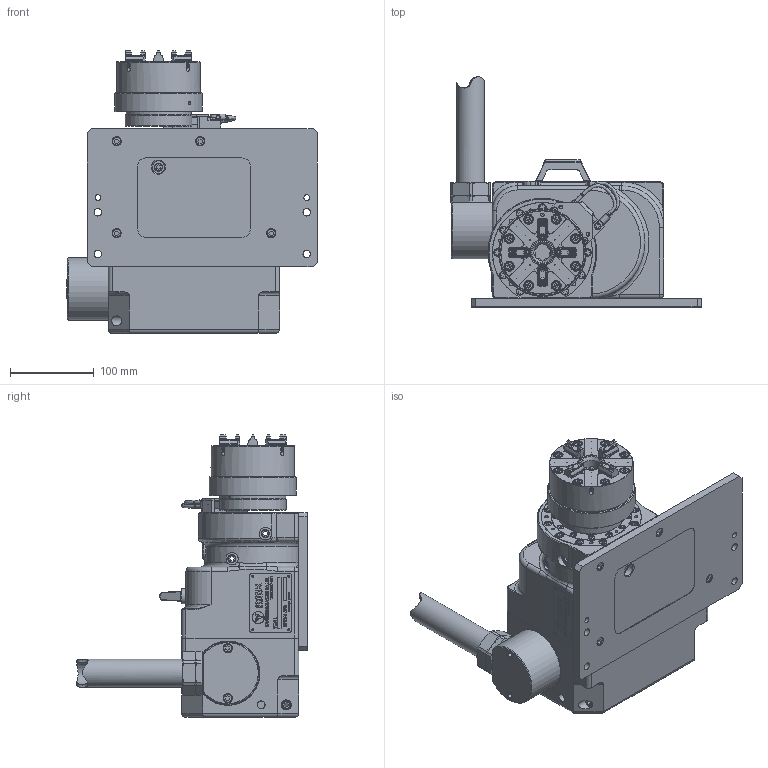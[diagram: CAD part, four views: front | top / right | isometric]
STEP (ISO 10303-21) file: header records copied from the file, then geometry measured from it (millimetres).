
FILE_DESCRIPTION (( 'STEP AP203' ), '1' );
FILE_NAME ('1505940-MTW86-07.STEP', '2021-03-18T01:37:50', ( '' ), ( '' ), 'SwSTEP 2.0', 'SolidWorks 2019', '' );
FILE_SCHEMA (( 'CONFIG_CONTROL_DESIGN' ));
Length unit declared in the file: millimetre
Products named in the file (1): 1505940-MTW86-07
Bounding box: 299.65 x 275.52 x 338.5 mm (x, y, z)
Surface area: 446401 mm2 (no closed solid volume)
Topology: 0 solids, 173 shells, 1183 faces, 4996 edges, 3884 vertices
Faces by surface type: plane 671, cylinder 325, cone 107, torus 36, bspline 32, sphere 12
Full cylindrical faces by diameter (mm): 0.45 x1, 1.5 x3, 1.6 x3, 2.5 x4, 3 x1, 3.3 x4, 4 x9, 4.2 x3, 4.325 x2, 4.5 x6, 5 x8, 6.8 x2, 7.1 x1, 7.22 x1, 7.7 x1, 8 x18, 9 x6, 9.5 x9, 10 x8, 11 x18, 12 x1, 15 x4, 19.5 x1, 20.5 x1, 22 x1, 26.4 x1, 33.4 x1, 72 x1, 79 x1, 80 x1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
Entity records: 60764 total; most frequent: CARTESIAN_POINT 23876, ORIENTED_EDGE 6823, DIRECTION 6517, EDGE_CURVE 4670, VERTEX_POINT 3794, VECTOR 2631, LINE 2631, AXIS2_PLACEMENT_3D 1943
